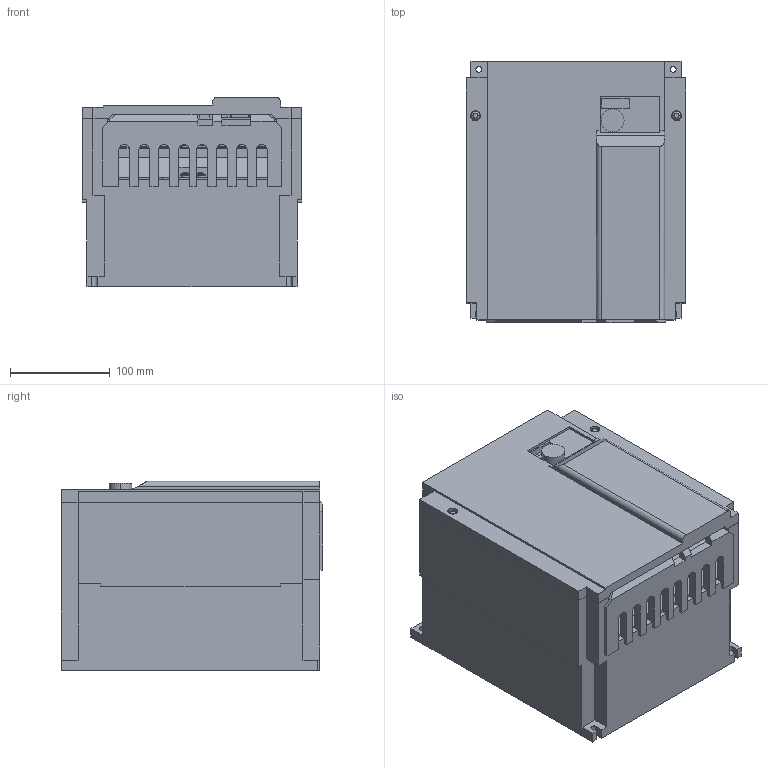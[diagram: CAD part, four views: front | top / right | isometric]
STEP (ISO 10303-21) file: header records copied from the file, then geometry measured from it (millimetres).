
FILE_DESCRIPTION((''),'2;1');
FILE_NAME('3D-INV-25_16_ASM','2010-09-06T',('HW41538'),(''),'PRO/ENGINEER BY PARAMETRIC TECHNOLOGY CORPORATION, 2006420','PRO/ENGINEER BY PARAMETRIC TECHNOLOGY CORPORATION, 2006420','');
FILE_SCHEMA(('CONFIG_CONTROL_DESIGN'));
Length unit declared in the file: millimetre
Products named in the file (12): 3D-BASE-25_16; 3D-POWER-25_16_ASM; 3D-FAN-80_; 3D-FAN_COV-21_16; 3D-FAN-80_ASSY_ASM; 3D-SW-PW-P-M5X10_; 3D-TE_SHORT-21_16; 3D-SW-PW-P-NA-M6X14_; 3D-TE_NEJI-21_16_ASM; 3D-SEN_COV-21_16; 3D-COV-25_16; 3D-INV-25_16_ASM
Assembly tree (22 placements, depth 3):
  3D-INV-25_16_ASM
    3D-POWER-25_16_ASM
      3D-BASE-25_16
    3D-FAN-80_ASSY_ASM
      3D-FAN-80_  x2
      3D-FAN_COV-21_16
    3D-SW-PW-P-M5X10_  x2
    3D-TE_NEJI-21_16_ASM
      3D-TE_SHORT-21_16
      3D-SW-PW-P-NA-M6X14_  x10
    3D-SEN_COV-21_16
    3D-COV-25_16
Bounding box: 220 x 263 x 190.2 mm (x, y, z)
Volume: 8609781.9 mm3; surface area: 595655 mm2
Topology: 19 solids, 19 shells, 1224 faces, 3262 edges, 2140 vertices
Faces by surface type: plane 829, cylinder 319, torus 28, cone 24, sphere 24
Entity records: 33536 total; most frequent: CARTESIAN_POINT 5885, ORIENTED_EDGE 5710, DIRECTION 5554, EDGE_CURVE 2855, VECTOR 2318, LINE 2318, VERTEX_POINT 1895, AXIS2_PLACEMENT_3D 1618
